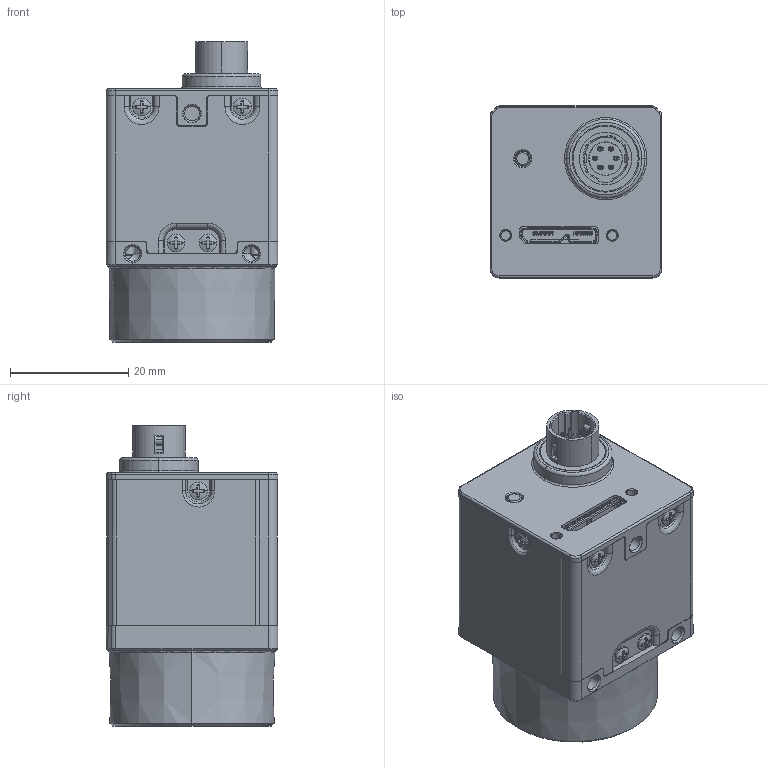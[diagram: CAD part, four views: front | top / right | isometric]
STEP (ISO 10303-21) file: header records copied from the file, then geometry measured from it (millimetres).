
FILE_DESCRIPTION((''),'2;1');
FILE_NAME('MV-CU013-80UMC','2023-04-12T11:52:22',('zhangfeixiang8'),(''),'CREO PARAMETRIC BY PTC INC, 2020044','CREO PARAMETRIC BY PTC INC, 2020044','');
FILE_SCHEMA(('CONFIG_CONTROL_DESIGN'));
Products named in the file (1): MV-CU013-80UMC
Bounding box: 29 x 29 x 50.81 mm (x, y, z)
Volume: 33807.8 mm3; surface area: 18830.9 mm2
Topology: 24 solids, 67 shells, 3211 faces, 8619 edges, 5500 vertices
Faces by surface type: plane 1203, cylinder 768, bspline 515, cone 388, torus 275, extrusion 32, sphere 30
Entity records: 141224 total; most frequent: CARTESIAN_POINT 65396, ORIENTED_EDGE 16958, DIRECTION 14227, EDGE_CURVE 8554, VERTEX_POINT 5500, AXIS2_PLACEMENT_3D 5222, VECTOR 3783, LINE 3751
